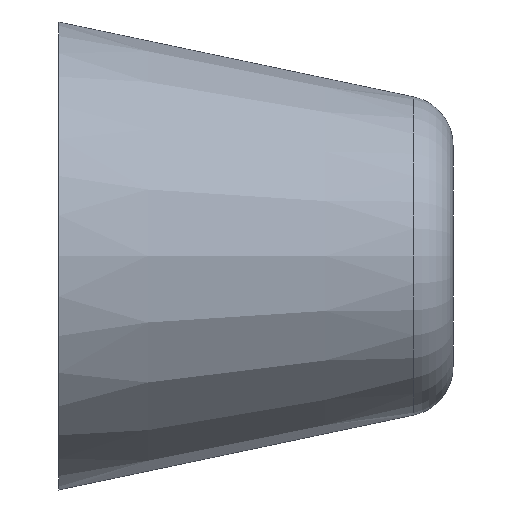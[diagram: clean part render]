
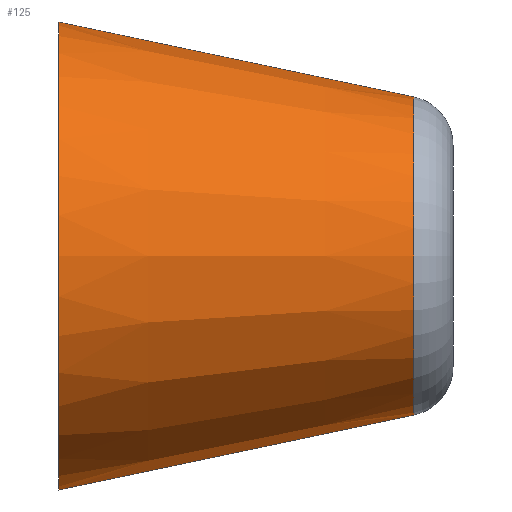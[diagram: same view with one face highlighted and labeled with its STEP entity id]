
A CAD part, left-side view. The second image highlights one B-rep face of the part: STEP entity #125.
In plain terms, the highlighted conical face has half-angle 11.911 degrees and reference radius 12.25 mm.
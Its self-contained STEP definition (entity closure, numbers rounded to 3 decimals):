
#4 = VECTOR ( 'NONE', #499, 1000. ) ;
#11 = CARTESIAN_POINT ( 'NONE',  ( 0., 0., 0. ) ) ;
#17 = DIRECTION ( 'NONE',  ( 0., 0., -1. ) ) ;
#34 = LINE ( 'NONE', #220, #4 ) ;
#61 = DIRECTION ( 'NONE',  ( 0., 0., 1. ) ) ;
#66 = ORIENTED_EDGE ( 'NONE', *, *, #170, .T. ) ;
#69 = CONICAL_SURFACE ( 'NONE', #296, 12.25, 0.208 ) ;
#107 = CARTESIAN_POINT ( 'NONE',  ( 0., 32., -19. ) ) ;
#116 = CARTESIAN_POINT ( 'NONE',  ( 0., 3.174, 12.92 ) ) ;
#120 = VERTEX_POINT ( 'NONE', #107 ) ;
#122 = ORIENTED_EDGE ( 'NONE', *, *, #357, .T. ) ;
#125 = ADVANCED_FACE ( 'NONE', ( #429 ), #69, .T. ) ;
#166 = VERTEX_POINT ( 'NONE', #476 ) ;
#170 = EDGE_CURVE ( 'NONE', #442, #271, #569, .T. ) ;
#220 = CARTESIAN_POINT ( 'NONE',  ( 0., 0., 12.25 ) ) ;
#232 = DIRECTION ( 'NONE',  ( 0., 0.978, -0.206 ) ) ;
#271 = VERTEX_POINT ( 'NONE', #116 ) ;
#287 = AXIS2_PLACEMENT_3D ( 'NONE', #292, #435, #17 ) ;
#289 = LINE ( 'NONE', #423, #602 ) ;
#292 = CARTESIAN_POINT ( 'NONE',  ( 0., 32., 0. ) ) ;
#296 = AXIS2_PLACEMENT_3D ( 'NONE', #11, #390, #61 ) ;
#306 = AXIS2_PLACEMENT_3D ( 'NONE', #338, #383, #519 ) ;
#338 = CARTESIAN_POINT ( 'NONE',  ( 0., 3.174, 0. ) ) ;
#354 = CIRCLE ( 'NONE', #287, 19. ) ;
#357 = EDGE_CURVE ( 'NONE', #271, #166, #34, .T. ) ;
#383 = DIRECTION ( 'NONE',  ( 0., 1., 0. ) ) ;
#390 = DIRECTION ( 'NONE',  ( 0., 1., 0. ) ) ;
#423 = CARTESIAN_POINT ( 'NONE',  ( 0., 0., -12.25 ) ) ;
#427 = EDGE_CURVE ( 'NONE', #442, #120, #289, .T. ) ;
#429 = FACE_OUTER_BOUND ( 'NONE', #446, .T. ) ;
#435 = DIRECTION ( 'NONE',  ( 0., -1., 0. ) ) ;
#442 = VERTEX_POINT ( 'NONE', #510 ) ;
#446 = EDGE_LOOP ( 'NONE', ( #540, #66, #122, #530 ) ) ;
#476 = CARTESIAN_POINT ( 'NONE',  ( 0., 32., 19. ) ) ;
#499 = DIRECTION ( 'NONE',  ( 0., 0.978, 0.206 ) ) ;
#510 = CARTESIAN_POINT ( 'NONE',  ( 0., 3.174, -12.92 ) ) ;
#519 = DIRECTION ( 'NONE',  ( 0., 0., -1. ) ) ;
#530 = ORIENTED_EDGE ( 'NONE', *, *, #581, .T. ) ;
#540 = ORIENTED_EDGE ( 'NONE', *, *, #427, .F. ) ;
#569 = CIRCLE ( 'NONE', #306, 12.92 ) ;
#581 = EDGE_CURVE ( 'NONE', #166, #120, #354, .T. ) ;
#602 = VECTOR ( 'NONE', #232, 1000. ) ;
